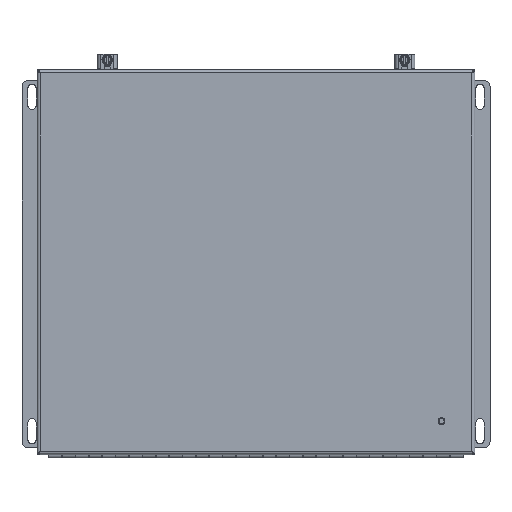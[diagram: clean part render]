
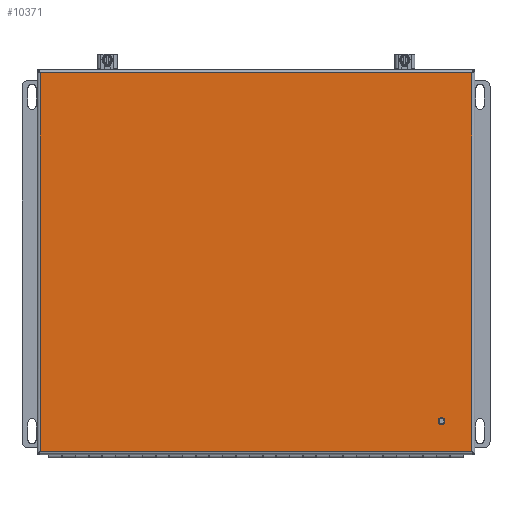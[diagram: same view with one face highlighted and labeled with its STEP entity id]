
A CAD part, top view. The second image highlights one B-rep face of the part: STEP entity #10371.
In plain terms, the highlighted planar face has unit normal (0, 0, 1) as drawn and (0, 0, -1) by its records, which use the part's own axes.
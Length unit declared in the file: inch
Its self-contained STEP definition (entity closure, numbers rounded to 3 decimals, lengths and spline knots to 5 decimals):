
#8964=DIRECTION('',(0.,-1.,0.));
#8965=VECTOR('',#8964,14.161);
#8966=CARTESIAN_POINT('',(16.263,-0.01211,0.));
#8967=LINE('',#8966,#8965);
#8997=CARTESIAN_POINT('',(1.25,-13.03511,0.));
#8998=DIRECTION('',(0.,0.,-1.));
#8999=DIRECTION('',(0.,-1.,0.));
#9000=AXIS2_PLACEMENT_3D('',#8997,#8998,#8999);
#9005=CARTESIAN_POINT('',(1.25,-13.03511,0.));
#9006=DIRECTION('',(0.,0.,-1.));
#9007=DIRECTION('',(0.,1.,0.));
#9008=AXIS2_PLACEMENT_3D('',#9005,#9006,#9007);
#9226=DIRECTION('',(1.,0.,0.));
#9227=VECTOR('',#9226,16.151);
#9228=CARTESIAN_POINT('',(0.112,-14.17311,0.));
#9229=LINE('',#9228,#9227);
#9280=DIRECTION('',(0.,-1.,0.));
#9281=VECTOR('',#9280,14.161);
#9282=CARTESIAN_POINT('',(0.112,-0.01211,0.));
#9283=LINE('',#9282,#9281);
#9398=DIRECTION('',(1.,0.,0.));
#9399=VECTOR('',#9398,16.151);
#9400=CARTESIAN_POINT('',(0.112,-0.01211,0.));
#9401=LINE('',#9400,#9399);
#9720=CARTESIAN_POINT('',(0.112,-0.01211,0.));
#9721=CARTESIAN_POINT('',(16.263,-0.01211,0.));
#9722=VERTEX_POINT('',#9720);
#9723=VERTEX_POINT('',#9721);
#9736=CARTESIAN_POINT('',(0.112,-14.17311,0.));
#9737=CARTESIAN_POINT('',(16.263,-14.17311,0.));
#9738=VERTEX_POINT('',#9736);
#9739=VERTEX_POINT('',#9737);
#9748=CARTESIAN_POINT('',(1.25,-13.13316,0.));
#9749=CARTESIAN_POINT('',(1.25,-12.93706,0.));
#9750=VERTEX_POINT('',#9748);
#9751=VERTEX_POINT('',#9749);
#10351=CARTESIAN_POINT('',(0.,0.09989,0.));
#10352=DIRECTION('',(0.,0.,-1.));
#10353=DIRECTION('',(1.,0.,0.));
#10354=AXIS2_PLACEMENT_3D('',#10351,#10352,#10353);
#10355=PLANE('',#10354);
#10356=ORIENTED_EDGE('',*,*,#10341,.F.);
#10358=ORIENTED_EDGE('',*,*,#10357,.F.);
#10360=ORIENTED_EDGE('',*,*,#10359,.T.);
#10362=ORIENTED_EDGE('',*,*,#10361,.T.);
#10363=EDGE_LOOP('',(#10356,#10358,#10360,#10362));
#10364=FACE_OUTER_BOUND('',#10363,.F.);
#10366=ORIENTED_EDGE('',*,*,#10365,.T.);
#10368=ORIENTED_EDGE('',*,*,#10367,.T.);
#10369=EDGE_LOOP('',(#10366,#10368));
#10370=FACE_BOUND('',#10369,.F.);
#9001=CIRCLE('',#9000,0.09805);
#9009=CIRCLE('',#9008,0.09805);
#10341=EDGE_CURVE('',#9723,#9739,#8967,.T.);
#10357=EDGE_CURVE('',#9722,#9723,#9401,.T.);
#10359=EDGE_CURVE('',#9722,#9738,#9283,.T.);
#10361=EDGE_CURVE('',#9738,#9739,#9229,.T.);
#10365=EDGE_CURVE('',#9750,#9751,#9001,.T.);
#10367=EDGE_CURVE('',#9751,#9750,#9009,.T.);
#10371=ADVANCED_FACE('',(#10364,#10370),#10355,.T.);
